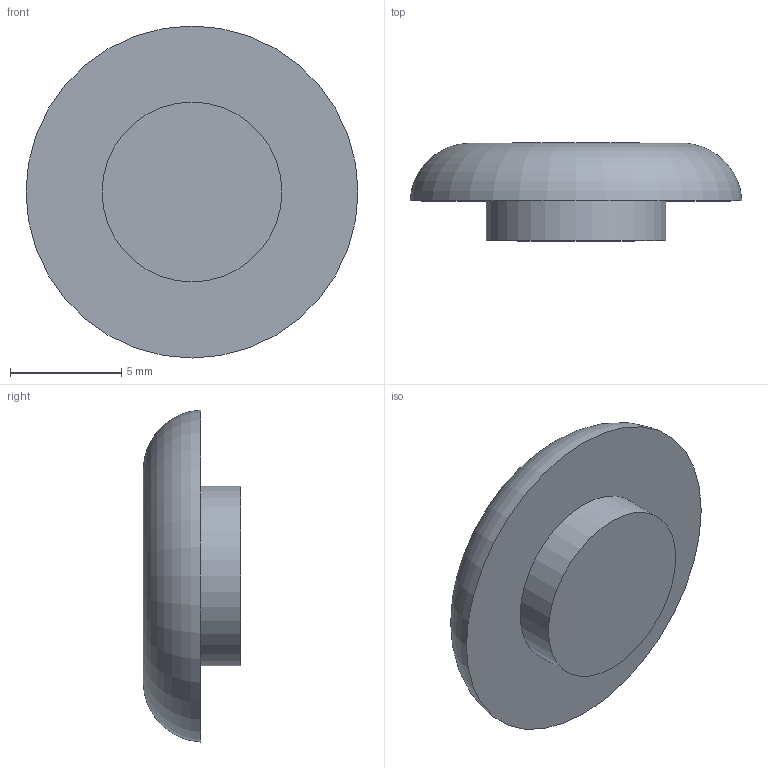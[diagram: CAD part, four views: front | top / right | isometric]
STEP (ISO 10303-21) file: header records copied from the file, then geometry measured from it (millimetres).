
FILE_DESCRIPTION(/* description */ ('STEP AP242 Edition 2','CAx-IF Rec.Pracs.---Representation and Presentation of Product Manufacturing Information (PMI)---4.0---2014-10-13','CAx-IF Rec.Pracs.---3D Tessellated Geometry---0.4---2014-09-14','2;1','CAx-IF Rec.Pracs.---User Defined Attributes---1.5---2016-08-15'),/* implementation_level */ '2;1');
FILE_NAME(/* name */ 'Assembly 1 - Part 14',/* time_stamp */ '2026-10-02T23:42:51Z',/* author */ (''),/* organization */ (''),/* preprocessor_version */ 'ST-DEVELOPER v20',/* originating_system */ 'ONSHAPE BY PTC INC, 1.221',/* authorisation */ ' ');
FILE_SCHEMA (('AP242_MANAGED_MODEL_BASED_3D_ENGINEERING_MIM_LF { 1 0 10303 442 3 1 4 }'));
Length unit declared in the file: metre
Products named in the file (1): Part 14
Bounding box: 14.95 x 4.4 x 14.95 mm (x, y, z)
Volume: 480.4 mm3; surface area: 460.7 mm2
Topology: 1 solids, 1 shells, 5 faces, 6 edges, 4 vertices
Faces by surface type: plane 3, cylinder 1, torus 1
Full cylindrical faces by diameter (mm): 8.101 x1
Entity records: 116 total; most frequent: DIRECTION 20, CARTESIAN_POINT 14, AXIS2_PLACEMENT_3D 10, ORIENTED_EDGE 8, EDGE_LOOP 8, FACE_BOUND 8, ADVANCED_FACE 5, EDGE_CURVE 4
